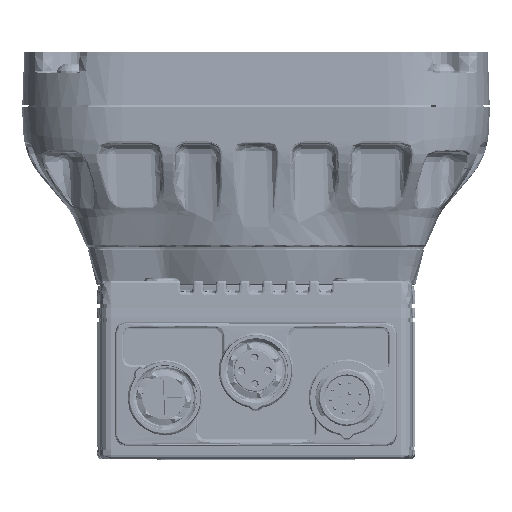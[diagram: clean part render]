
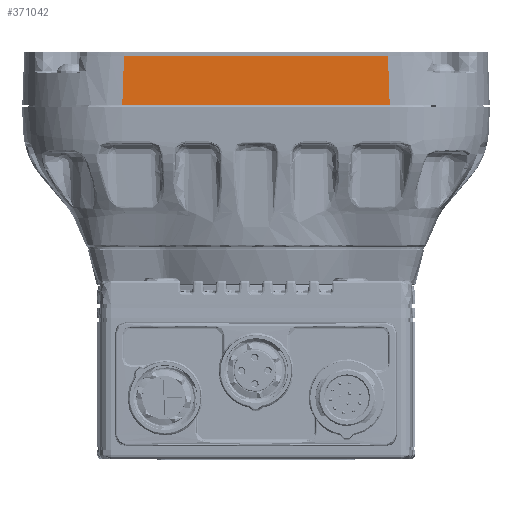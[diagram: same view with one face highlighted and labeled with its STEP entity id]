
A CAD part, front view. The second image highlights one B-rep face of the part: STEP entity #371042.
In plain terms, the highlighted planar face has unit normal (0, -0.999, 0.035).
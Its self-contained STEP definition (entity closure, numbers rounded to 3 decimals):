
#5245 = ORIENTED_EDGE ( 'NONE', *, *, #692846, .F. ) ;
#38978 = LINE ( 'NONE', #279040, #588112 ) ;
#41298 = EDGE_LOOP ( 'NONE', ( #5245, #757327, #320767, #104740 ) ) ;
#51970 = VECTOR ( 'NONE', #657238, 1000. ) ;
#56019 = CARTESIAN_POINT ( 'NONE',  ( 25.327, -37.315, 38.602 ) ) ;
#73225 = PLANE ( 'NONE',  #827587 ) ;
#104740 = ORIENTED_EDGE ( 'NONE', *, *, #530258, .T. ) ;
#136260 = VECTOR ( 'NONE', #557063, 1000. ) ;
#158620 = VERTEX_POINT ( 'NONE', #830656 ) ;
#200668 = CARTESIAN_POINT ( 'NONE',  ( 25.071, -37.06, 45.92 ) ) ;
#253056 = VERTEX_POINT ( 'NONE', #200668 ) ;
#277058 = VERTEX_POINT ( 'NONE', #300451 ) ;
#279040 = CARTESIAN_POINT ( 'NONE',  ( -44.4, -37.06, 45.92 ) ) ;
#300451 = CARTESIAN_POINT ( 'NONE',  ( -25.071, -37.06, 45.92 ) ) ;
#320767 = ORIENTED_EDGE ( 'NONE', *, *, #638850, .F. ) ;
#336542 = DIRECTION ( 'NONE',  ( -0.035, -0.035, -0.999 ) ) ;
#351171 = DIRECTION ( 'NONE',  ( 1., 0., 0. ) ) ;
#371042 = ADVANCED_FACE ( 'NONE', ( #757571 ), #73225, .T. ) ;
#411181 = LINE ( 'NONE', #837739, #579189 ) ;
#433122 = LINE ( 'NONE', #516116, #51970 ) ;
#475508 = CARTESIAN_POINT ( 'NONE',  ( -25.394, -37.383, 36.67 ) ) ;
#485368 = EDGE_CURVE ( 'NONE', #158620, #253056, #898495, .T. ) ;
#515185 = VERTEX_POINT ( 'NONE', #475508 ) ;
#516116 = CARTESIAN_POINT ( 'NONE',  ( -44.4, -37.383, 36.67 ) ) ;
#530258 = EDGE_CURVE ( 'NONE', #277058, #515185, #411181, .T. ) ;
#557063 = DIRECTION ( 'NONE',  ( -0.035, 0.035, 0.999 ) ) ;
#574401 = CARTESIAN_POINT ( 'NONE',  ( -44.4, -37.4, 36.17 ) ) ;
#579189 = VECTOR ( 'NONE', #336542, 1000. ) ;
#588112 = VECTOR ( 'NONE', #351171, 1000. ) ;
#638850 = EDGE_CURVE ( 'NONE', #277058, #253056, #38978, .T. ) ;
#657238 = DIRECTION ( 'NONE',  ( -1., 0., 0. ) ) ;
#692846 = EDGE_CURVE ( 'NONE', #158620, #515185, #433122, .T. ) ;
#712303 = DIRECTION ( 'NONE',  ( 0., -0.999, 0.035 ) ) ;
#718432 = DIRECTION ( 'NONE',  ( 0., -0.035, -0.999 ) ) ;
#757327 = ORIENTED_EDGE ( 'NONE', *, *, #485368, .T. ) ;
#757571 = FACE_OUTER_BOUND ( 'NONE', #41298, .T. ) ;
#827587 = AXIS2_PLACEMENT_3D ( 'NONE', #574401, #712303, #718432 ) ;
#830656 = CARTESIAN_POINT ( 'NONE',  ( 25.394, -37.383, 36.67 ) ) ;
#837739 = CARTESIAN_POINT ( 'NONE',  ( -25.435, -37.423, 35.509 ) ) ;
#898495 = LINE ( 'NONE', #56019, #136260 ) ;
